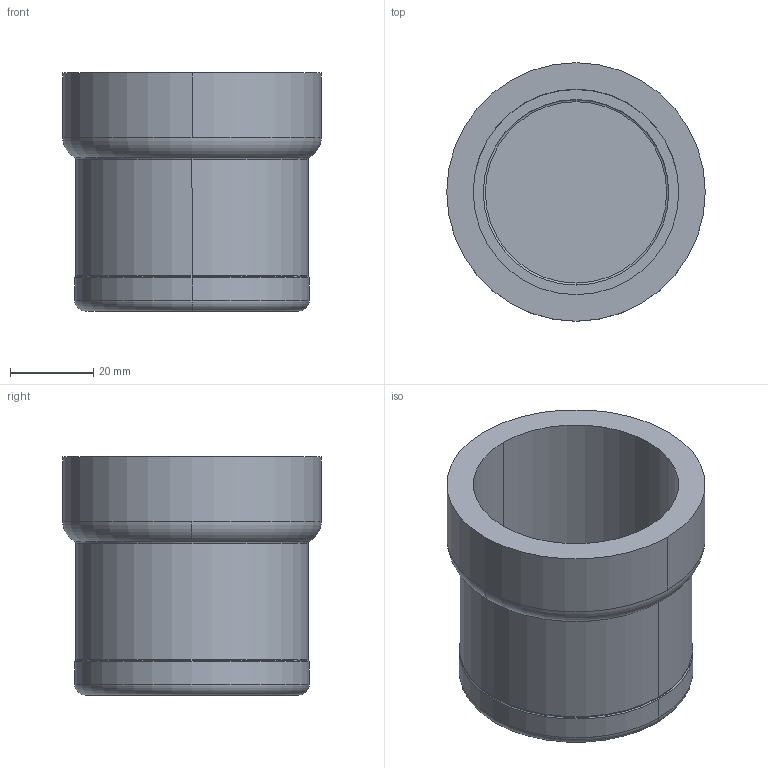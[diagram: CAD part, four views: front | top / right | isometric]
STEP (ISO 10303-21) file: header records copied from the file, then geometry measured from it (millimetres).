
FILE_DESCRIPTION(('Creo Elements/Direct Modeling STEP Export'),'2;1');
FILE_NAME('C9429_1-1-2.stp','2020-07-17T12:05:21',(''),(''),'PTC Creo Elements/Direct Modeling STEP processor for AP214 (Solid Model)','PTC Creo Elements/Direct Modeling 19.0C 15-Aug-2015 (C) Parametric Technology GmbH','');
FILE_SCHEMA(('AUTOMOTIVE_DESIGN { 1 0 10303 214 1 1 1 1 }'));
Length unit declared in the file: millimetre
Products named in the file (2): C9429_1-1-2
Assembly tree (1 placements, depth 2):
  C9429_1-1-2
    C9429_1-1-2
Bounding box: 62 x 62 x 57.1 mm (x, y, z)
Volume: 49612 mm3; surface area: 24111 mm2
Topology: 1 solids, 1 shells, 26 faces, 54 edges, 32 vertices
Faces by surface type: cylinder 10, torus 10, plane 4, cone 2
Entity records: 659 total; most frequent: DIRECTION 116, ORIENTED_EDGE 108, CARTESIAN_POINT 96, EDGE_CURVE 54, AXIS2_PLACEMENT_3D 52, VERTEX_POINT 32, EDGE_LOOP 28, FACE_OUTER_BOUND 26
